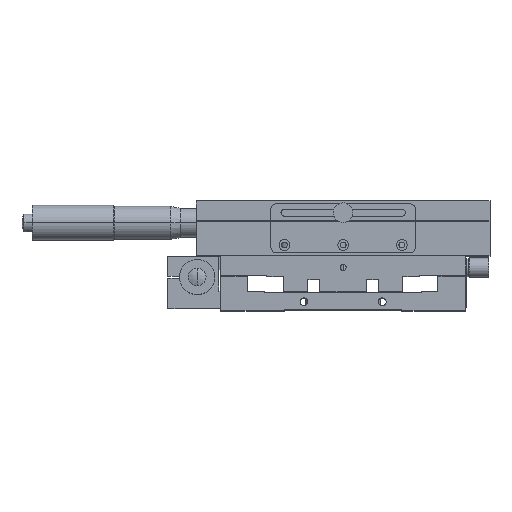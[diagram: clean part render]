
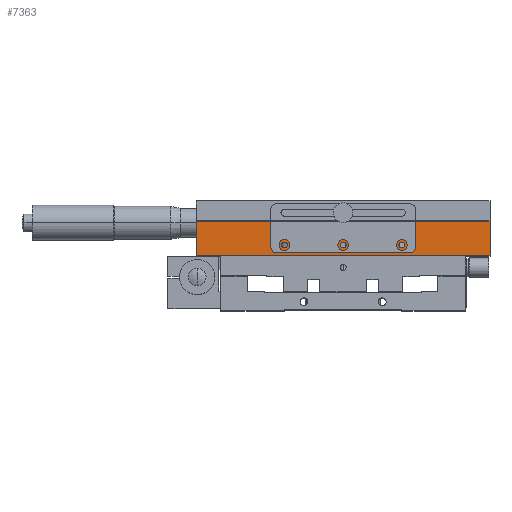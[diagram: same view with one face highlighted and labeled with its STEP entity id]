
A CAD part, top view. The second image highlights one B-rep face of the part: STEP entity #7363.
In plain terms, the highlighted planar face has unit normal (0, 0, 1) as drawn and (1, 0, 0) by its records, which use the part's own axes.
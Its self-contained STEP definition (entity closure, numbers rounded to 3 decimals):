
#245 = CARTESIAN_POINT ( 'NONE',  ( 78.015, 1.681, 75. ) ) ;
#246 = DIRECTION ( 'NONE',  ( 0., 1., 0. ) ) ;
#311 = CARTESIAN_POINT ( 'NONE',  ( 78.015, 1.681, -75. ) ) ;
#312 = DIRECTION ( 'NONE',  ( 0., 0., 1. ) ) ;
#316 = CARTESIAN_POINT ( 'NONE',  ( 78.015, -10.319, 30. ) ) ;
#317 = DIRECTION ( 'NONE',  ( 1., 0., 0. ) ) ;
#318 = DIRECTION ( 'NONE',  ( 0., 0., -1. ) ) ;
#322 = CARTESIAN_POINT ( 'NONE',  ( 78.015, -10.319, -30. ) ) ;
#323 = DIRECTION ( 'NONE',  ( 1., 0., 0. ) ) ;
#324 = DIRECTION ( 'NONE',  ( 0., 0., -1. ) ) ;
#325 = CARTESIAN_POINT ( 'NONE',  ( 78.015, -15.819, -75. ) ) ;
#326 = DIRECTION ( 'NONE',  ( 0., 0., 1. ) ) ;
#330 = CARTESIAN_POINT ( 'NONE',  ( 78.015, -10.319, 0. ) ) ;
#331 = DIRECTION ( 'NONE',  ( 1., 0., 0. ) ) ;
#332 = DIRECTION ( 'NONE',  ( 0., 0., -1. ) ) ;
#699 = AXIS2_PLACEMENT_3D ( 'NONE', #316, #317, #318 ) ;
#701 = AXIS2_PLACEMENT_3D ( 'NONE', #322, #323, #324 ) ;
#703 = AXIS2_PLACEMENT_3D ( 'NONE', #330, #331, #332 ) ;
#839 = AXIS2_PLACEMENT_3D ( 'NONE', #1945, #1942, #1948 ) ;
#1083 = FACE_BOUND ( 'NONE', #7779, .T. ) ;
#1087 = FACE_OUTER_BOUND ( 'NONE', #7792, .T. ) ;
#1089 = FACE_BOUND ( 'NONE', #7784, .T. ) ;
#1093 = FACE_BOUND ( 'NONE', #7793, .T. ) ;
#1942 = DIRECTION ( 'NONE',  ( 1., 0., 0. ) ) ;
#1945 = CARTESIAN_POINT ( 'NONE',  ( 78.015, 1.681, -75. ) ) ;
#1947 = PLANE ( 'NONE',  #839 ) ;
#1948 = DIRECTION ( 'NONE',  ( 0., 0., -1. ) ) ;
#2057 = VERTEX_POINT ( 'NONE', #6016 ) ;
#2479 = CARTESIAN_POINT ( 'NONE',  ( 78.015, 1.681, -75. ) ) ;
#2499 = CARTESIAN_POINT ( 'NONE',  ( 78.015, -15.819, -75. ) ) ;
#2510 = CARTESIAN_POINT ( 'NONE',  ( 78.015, -15.819, 75. ) ) ;
#2601 = CARTESIAN_POINT ( 'NONE',  ( 78.015, 1.681, 75. ) ) ;
#5865 = VERTEX_POINT ( 'NONE', #6050 ) ;
#5892 = VERTEX_POINT ( 'NONE', #6052 ) ;
#5982 = VERTEX_POINT ( 'NONE', #6092 ) ;
#6010 = VERTEX_POINT ( 'NONE', #6115 ) ;
#6014 = VERTEX_POINT ( 'NONE', #6118 ) ;
#6016 = CARTESIAN_POINT ( 'NONE',  ( 78.015, -10.319, 31.5 ) ) ;
#6050 = CARTESIAN_POINT ( 'NONE',  ( 78.015, -10.319, 28.5 ) ) ;
#6052 = CARTESIAN_POINT ( 'NONE',  ( 78.015, -10.319, -28.5 ) ) ;
#6092 = CARTESIAN_POINT ( 'NONE',  ( 78.015, -10.319, 1.5 ) ) ;
#6115 = CARTESIAN_POINT ( 'NONE',  ( 78.015, -10.319, -31.5 ) ) ;
#6118 = CARTESIAN_POINT ( 'NONE',  ( 78.015, -10.319, -1.5 ) ) ;
#6383 = EDGE_CURVE ( 'NONE', #7570, #7550, #10766, .T. ) ;
#6424 = EDGE_CURVE ( 'NONE', #5982, #6014, #10830, .T. ) ;
#6428 = EDGE_CURVE ( 'NONE', #5892, #6010, #10836, .T. ) ;
#6432 = EDGE_CURVE ( 'NONE', #2057, #5865, #10842, .T. ) ;
#6889 = EDGE_CURVE ( 'NONE', #7581, #7672, #11067, .T. ) ;
#6913 = EDGE_CURVE ( 'NONE', #7550, #7672, #11102, .T. ) ;
#6915 = EDGE_CURVE ( 'NONE', #5865, #2057, #11106, .T. ) ;
#6917 = EDGE_CURVE ( 'NONE', #6010, #5892, #11108, .T. ) ;
#6919 = EDGE_CURVE ( 'NONE', #6014, #5982, #11110, .T. ) ;
#6920 = EDGE_CURVE ( 'NONE', #7570, #7581, #11111, .T. ) ;
#7363 = ADVANCED_FACE ( 'NONE', ( #1083, #1093, #1089, #1087 ), #1947, .T. ) ;
#7550 = VERTEX_POINT ( 'NONE', #2479 ) ;
#7570 = VERTEX_POINT ( 'NONE', #2499 ) ;
#7581 = VERTEX_POINT ( 'NONE', #2510 ) ;
#7672 = VERTEX_POINT ( 'NONE', #2601 ) ;
#7779 = EDGE_LOOP ( 'NONE', ( #8252, #8253 ) ) ;
#7784 = EDGE_LOOP ( 'NONE', ( #8256, #8257 ) ) ;
#7792 = EDGE_LOOP ( 'NONE', ( #8258, #8259, #8260, #8261 ) ) ;
#7793 = EDGE_LOOP ( 'NONE', ( #8254, #8255 ) ) ;
#8252 = ORIENTED_EDGE ( 'NONE', *, *, #6919, .F. ) ;
#8253 = ORIENTED_EDGE ( 'NONE', *, *, #6424, .F. ) ;
#8254 = ORIENTED_EDGE ( 'NONE', *, *, #6917, .F. ) ;
#8255 = ORIENTED_EDGE ( 'NONE', *, *, #6428, .F. ) ;
#8256 = ORIENTED_EDGE ( 'NONE', *, *, #6915, .F. ) ;
#8257 = ORIENTED_EDGE ( 'NONE', *, *, #6432, .F. ) ;
#8258 = ORIENTED_EDGE ( 'NONE', *, *, #6913, .T. ) ;
#8259 = ORIENTED_EDGE ( 'NONE', *, *, #6889, .F. ) ;
#8260 = ORIENTED_EDGE ( 'NONE', *, *, #6920, .F. ) ;
#8261 = ORIENTED_EDGE ( 'NONE', *, *, #6383, .T. ) ;
#10268 = AXIS2_PLACEMENT_3D ( 'NONE', #11374, #11375, #11376 ) ;
#10270 = AXIS2_PLACEMENT_3D ( 'NONE', #11384, #11385, #11386 ) ;
#10272 = AXIS2_PLACEMENT_3D ( 'NONE', #11394, #11395, #11396 ) ;
#10766 = LINE ( 'NONE', #11261, #10768 ) ;
#10768 = VECTOR ( 'NONE', #11268, 1000. ) ;
#10830 = CIRCLE ( 'NONE', #10268, 1.5 ) ;
#10836 = CIRCLE ( 'NONE', #10270, 1.5 ) ;
#10842 = CIRCLE ( 'NONE', #10272, 1.5 ) ;
#11067 = LINE ( 'NONE', #245, #11069 ) ;
#11069 = VECTOR ( 'NONE', #246, 1000. ) ;
#11102 = LINE ( 'NONE', #311, #11105 ) ;
#11105 = VECTOR ( 'NONE', #312, 1000. ) ;
#11106 = CIRCLE ( 'NONE', #699, 1.5 ) ;
#11108 = CIRCLE ( 'NONE', #701, 1.5 ) ;
#11110 = CIRCLE ( 'NONE', #703, 1.5 ) ;
#11111 = LINE ( 'NONE', #325, #11113 ) ;
#11113 = VECTOR ( 'NONE', #326, 1000. ) ;
#11261 = CARTESIAN_POINT ( 'NONE',  ( 78.015, 1.681, -75. ) ) ;
#11268 = DIRECTION ( 'NONE',  ( 0., 1., 0. ) ) ;
#11374 = CARTESIAN_POINT ( 'NONE',  ( 78.015, -10.319, 0. ) ) ;
#11375 = DIRECTION ( 'NONE',  ( 1., 0., 0. ) ) ;
#11376 = DIRECTION ( 'NONE',  ( 0., 0., -1. ) ) ;
#11384 = CARTESIAN_POINT ( 'NONE',  ( 78.015, -10.319, -30. ) ) ;
#11385 = DIRECTION ( 'NONE',  ( 1., 0., 0. ) ) ;
#11386 = DIRECTION ( 'NONE',  ( 0., 0., -1. ) ) ;
#11394 = CARTESIAN_POINT ( 'NONE',  ( 78.015, -10.319, 30. ) ) ;
#11395 = DIRECTION ( 'NONE',  ( 1., 0., 0. ) ) ;
#11396 = DIRECTION ( 'NONE',  ( 0., 0., -1. ) ) ;
